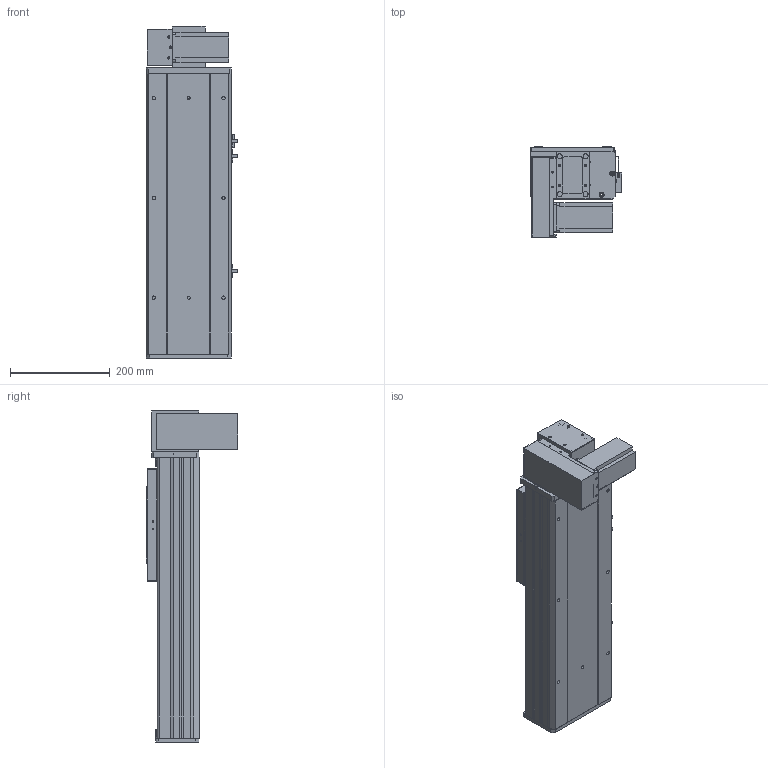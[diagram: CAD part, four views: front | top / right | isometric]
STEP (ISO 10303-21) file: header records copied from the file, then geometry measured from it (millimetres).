
FILE_DESCRIPTION (( 'STEP AP203' ), '1' );
FILE_NAME ('Y170CB-D105-S250-BM-P400W.STEP', '2020-02-20T06:08:23', ( '微软用户' ), ( '微软中国' ), 'SwSTEP 2.0', 'SolidWorks 2017', '' );
FILE_SCHEMA (( 'CONFIG_CONTROL_DESIGN' ));
Length unit declared in the file: millimetre
Products named in the file (18): 70CB-詩湍--; san松下电机400不带刹车----; Y100-135俋离換覜ん--; 70CB-掛极-; Y170CB-陔俋离換覜結え---; --70CB --喘謫眊楊擘啣-; Y170CB-D105-S250-BM-P400W; Y1埴倛裔; 70CB-耜裔啣-; 17B-耜蚾蟀諉啣----; 70C--詩湍揤踡え-; 00B-俋欶BM--163; 70CB--耜裔; 70B喘謫眊----; 70C-雄赽釱-奻-; B-源倛裔啣; 0C--雄赽釱俋欶-170; 0B-萇儂楊擘啣
Assembly tree (21 placements, depth 2):
  Y170CB-D105-S250-BM-P400W
    B-源倛裔啣
    0B-萇儂楊擘啣
    san松下电机400不带刹车----
    70CB-掛极-
    --70CB --喘謫眊楊擘啣-
    70CB-耜裔啣-  x2
    70C--詩湍揤踡え-  x2
    70CB--耜裔
    70C-雄赽釱-奻-
    0C--雄赽釱俋欶-170
    70CB-詩湍--
    Y100-135俋离換覜ん--  x3
    Y170CB-陔俋离換覜結え---
    Y1埴倛裔
    17B-耜蚾蟀諉啣----
    00B-俋欶BM--163
    70B喘謫眊----
Bounding box: 183.5 x 184 x 666 mm (x, y, z)
Volume: 3586890.7 mm3; surface area: 1268438.3 mm2
Topology: 21 solids, 21 shells, 975 faces, 2597 edges, 1722 vertices
Faces by surface type: cylinder 489, plane 462, cone 24
Entity records: 30868 total; most frequent: CARTESIAN_POINT 5616, DIRECTION 5018, ORIENTED_EDGE 4676, EDGE_CURVE 2338, AXIS2_PLACEMENT_3D 1828, VERTEX_POINT 1552, LINE 1362, VECTOR 1362
